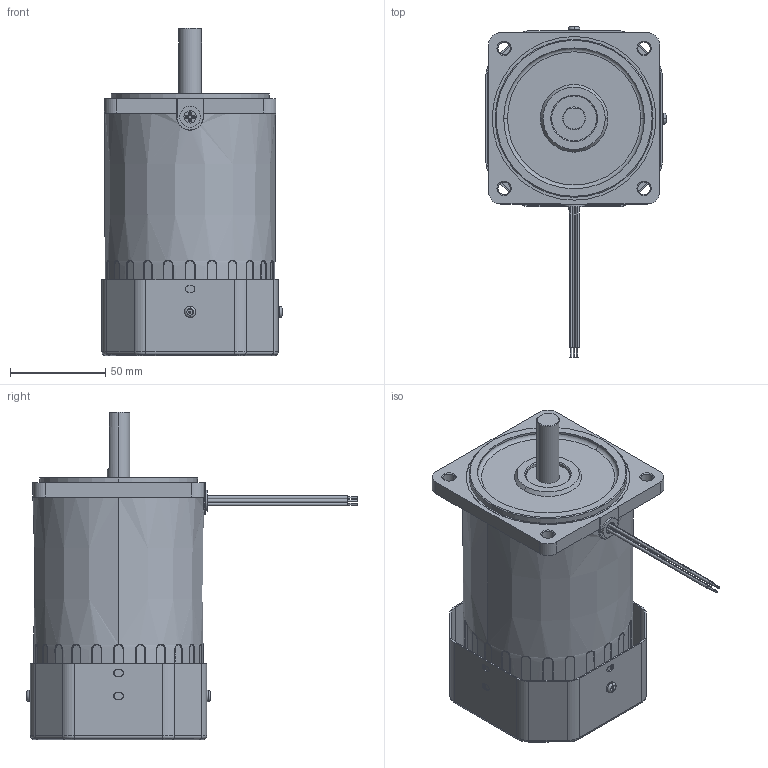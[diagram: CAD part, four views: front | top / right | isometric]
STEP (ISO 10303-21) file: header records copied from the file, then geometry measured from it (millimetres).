
FILE_DESCRIPTION (( 'STEP AP214' ), '1' );
FILE_NAME ('ACP-M-5IK120A.STEP', '2009-11-19T18:44:03', ( 'Tim Raines' ), ( 'Anaheim Automation' ), 'SwSTEP 2.0', 'SolidWorks 2009', '' );
FILE_SCHEMA (( 'AUTOMOTIVE_DESIGN' ));
Length unit declared in the file: millimetre
Products named in the file (1): ACP-M-5IK120A
Bounding box: 94.6 x 173.8 x 172 mm (x, y, z)
Volume: 794652.8 mm3; surface area: 105877 mm2
Topology: 2 solids, 2 shells, 947 faces, 2389 edges, 1471 vertices
Faces by surface type: plane 342, cylinder 340, bspline 192, torus 44, cone 29
Entity records: 48120 total; most frequent: CARTESIAN_POINT 16686, ORIENTED_EDGE 4766, DIRECTION 4275, EDGE_CURVE 2383, AXIS2_PLACEMENT_3D 1640, VERTEX_POINT 1471, EDGE_LOOP 1022, VECTOR 995
